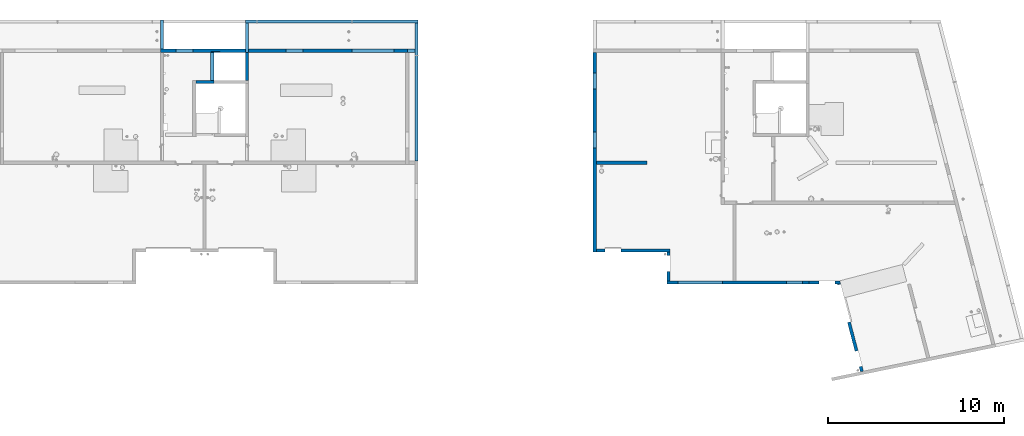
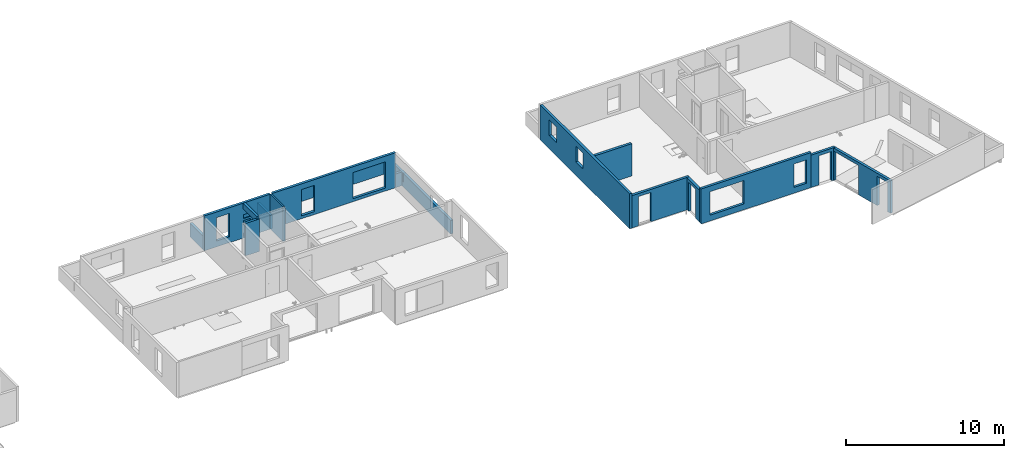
# One storey, part 12 of 28: 17 walls, 23 openings.
"""IFC2X3 building model written with IfcOpenShell, lengths in centimetres."""

import ifcopenshell
import ifcopenshell.guid

model = None  # the IFC model being written
_history = None  # IfcOwnerHistory: only IFC2X3 demands one
_inside = {}  # id of a spatial element -> (the spatial element, [elements in it])
_under = {}  # id of a project, library or spatial element -> (it, [spatial elements below it])
_declared = {}  # id of a project -> (the project, [libraries it declares])
_typed = {}  # id of a type object -> (the type object, [elements of that type])
_made_of = {}  # id of a material, layer set ... -> (it, [elements and type objects made of it])


def new_model(schema):
    """Start an empty IFC model of exactly this schema.

    Asked for "IFC4X3", IfcOpenShell would pick the latest addendum, in which some entities
    have other attributes; the version numbers below select the first issue.
    IFC2X3 requires an IfcOwnerHistory on every rooted entity: one is made here for all.
    """
    global model, _history
    if schema == "IFC4X3":
        model = ifcopenshell.file(schema_version=(4, 3, 0, 0))
    else:
        model = ifcopenshell.file(schema=schema)
    _inside.clear()
    _under.clear()
    _declared.clear()
    _typed.clear()
    _made_of.clear()
    _history = None
    if model.schema == "IFC2X3":
        org = make("IfcOrganization", Name="unknown")
        user = make(
            "IfcPersonAndOrganization",
            ThePerson=make("IfcPerson", FamilyName="unknown"),
            TheOrganization=org,
        )
        app = make(
            "IfcApplication",
            ApplicationDeveloper=org,
            Version="unknown",
            ApplicationFullName="unknown",
            ApplicationIdentifier="unknown",
        )
        _history = make(
            "IfcOwnerHistory",
            OwningUser=user,
            OwningApplication=app,
            ChangeAction="ADDED",
            CreationDate=0,
        )
    return model


def make(cls, **values):
    """One entity of the class cls with the attributes given. An attribute that is None is left unset."""
    return model.create_entity(
        cls, **{name: value for name, value in values.items() if value is not None}
    )


def entity(cls, *values):
    """Any entity or typed value of the class cls, its attributes in the order of the schema. None: left unset."""
    e = model.create_entity(cls)
    for i, value in enumerate(values):
        if value is not None:
            e[i] = value
    return e


def rooted(cls, **values):
    """An entity with a GlobalId (a new one), such as an element, a storey or a relation."""
    return make(cls, GlobalId=ifcopenshell.guid.new(), OwnerHistory=_history, **values)


def si_unit(unit_type, name, prefix=None):
    """IfcSIUnit, for example si_unit("LENGTHUNIT", "METRE", prefix="MILLI")."""
    return make("IfcSIUnit", UnitType=unit_type, Prefix=prefix, Name=name)


def converted_unit(unit_type, name, factor, base, dimensions=None, offset=None):
    """IfcConversionBasedUnit, such as the inch: factor (a typed value) times the base unit."""
    return make(
        "IfcConversionBasedUnit"
        if offset is None
        else "IfcConversionBasedUnitWithOffset",
        ConversionOffset=offset,
        Dimensions=None
        if dimensions is None
        else entity("IfcDimensionalExponents", *dimensions),
        UnitType=unit_type,
        Name=name,
        ConversionFactor=make(
            "IfcMeasureWithUnit", ValueComponent=factor, UnitComponent=base
        ),
    )


def derived_unit(unit_type, elements):
    """IfcDerivedUnit: a product of units, each with its exponent."""
    return make(
        "IfcDerivedUnit",
        Elements=[
            make("IfcDerivedUnitElement", Unit=unit, Exponent=power)
            for unit, power in elements
        ],
        UnitType=unit_type,
    )


def assignment(units):
    """IfcUnitAssignment: the units of a project."""
    return None if units is None else make("IfcUnitAssignment", Units=units)


def point(xyz):
    """IfcCartesianPoint."""
    return None if xyz is None else make("IfcCartesianPoint", Coordinates=xyz)


def direction(xyz):
    """IfcDirection."""
    return None if xyz is None else make("IfcDirection", DirectionRatios=xyz)


def frame(location, z_axis=None, x_axis=None):
    """IfcAxis2Placement3D, a coordinate frame: its origin and axes. An axis left out is left unset."""
    return make(
        "IfcAxis2Placement3D",
        Location=point(location),
        Axis=direction(z_axis),
        RefDirection=direction(x_axis),
    )


def frame_2d(location, x_axis=None):
    """IfcAxis2Placement2D, a coordinate frame in the plane: its origin and x axis."""
    return make(
        "IfcAxis2Placement2D", Location=point(location), RefDirection=direction(x_axis)
    )


def origin():
    """The frame at (0, 0, 0) with its axes left unset."""
    return frame((0.0, 0.0, 0.0))


def place(relative_to, where):
    """IfcLocalPlacement: puts the frame where relative to a parent placement (None: the world)."""
    return make(
        "IfcLocalPlacement", PlacementRelTo=relative_to, RelativePlacement=where
    )


def context(
    kind, dimensions, precision=None, world=None, true_north=None, identifier=None
):
    """IfcGeometricRepresentationContext, for example the 3D "Model" context."""
    return make(
        "IfcGeometricRepresentationContext",
        ContextIdentifier=identifier,
        ContextType=kind,
        CoordinateSpaceDimension=dimensions,
        Precision=precision,
        WorldCoordinateSystem=world,
        TrueNorth=true_north,
    )


def subcontext(parent, identifier, kind, view, scale=None):
    """IfcGeometricRepresentationSubContext, for example "Body" below "Model"."""
    return make(
        "IfcGeometricRepresentationSubContext",
        ContextIdentifier=identifier,
        ContextType=kind,
        ParentContext=parent,
        TargetScale=scale,
        TargetView=view,
    )


def project(units=None, contexts=None):
    """IfcProject with its units and contexts."""
    return rooted(
        "IfcProject",
        Name="project",
        RepresentationContexts=contexts,
        UnitsInContext=assignment(units),
    )


def spatial(cls, under=None, at=None, **own):
    """A site, building, storey or space (cls), placed at a placement, below another one or the project."""
    s = rooted(cls, ObjectPlacement=at, **own)
    if under is not None:
        _under.setdefault(under.id(), (under, []))[1].append(s)
    return s


def polyline(points):
    """IfcPolyline through the points."""
    return make("IfcPolyline", Points=[point(p) for p in points])


def profile(cls, at=None, kind="AREA", **sizes):
    """A parametric profile (cls). Its sizes go by their IFC names, for example OverallWidth=200.0."""
    return make(cls, ProfileType=kind, Position=at, **sizes)


def rectangle(**sizes):
    """IfcRectangleProfileDef."""
    return profile("IfcRectangleProfileDef", **sizes)


def outline(outer, holes=None, kind="AREA"):
    """IfcArbitraryClosedProfileDef: a profile drawn as a closed curve; with holes, ...WithVoids."""
    if holes is None:
        return make("IfcArbitraryClosedProfileDef", ProfileType=kind, OuterCurve=outer)
    return make(
        "IfcArbitraryProfileDefWithVoids",
        ProfileType=kind,
        OuterCurve=outer,
        InnerCurves=holes,
    )


def extrude(swept, where, along, depth):
    """IfcExtrudedAreaSolid: the profile swept, set in the frame where, extruded along a direction by depth."""
    return make(
        "IfcExtrudedAreaSolid",
        SweptArea=swept,
        Position=where,
        ExtrudedDirection=direction(along),
        Depth=depth,
    )


def clip(a, b, op="DIFFERENCE"):
    """IfcBooleanClippingResult: the solid a cut by the half space b."""
    return make(
        "IfcBooleanClippingResult", Operator=op, FirstOperand=a, SecondOperand=b
    )


def bounded_halfspace(plane, agree, where, boundary):
    """IfcPolygonalBoundedHalfSpace: a half space limited to a polygon's prism."""
    return make(
        "IfcPolygonalBoundedHalfSpace",
        BaseSurface=make("IfcPlane", Position=plane),
        AgreementFlag=agree,
        Position=where,
        PolygonalBoundary=boundary,
    )


def shape(context_of_items, identifier, shape_type, items):
    """IfcShapeRepresentation: the items that make up one representation, for example the "Body"."""
    return make(
        "IfcShapeRepresentation",
        ContextOfItems=context_of_items,
        RepresentationIdentifier=identifier,
        RepresentationType=shape_type,
        Items=items,
    )


def material(Name=None, Category=None):
    """IfcMaterial."""
    return make("IfcMaterial", Name=Name, Category=Category)


def layer(
    of_material, thickness, ventilated=None, Name=None, Category=None, Priority=None
):
    """IfcMaterialLayer: one layer of a wall or slab, of a material (None: an air gap)."""
    return make(
        "IfcMaterialLayer",
        Material=of_material,
        LayerThickness=thickness,
        IsVentilated=ventilated,
        Name=Name,
        Category=Category,
        Priority=Priority,
    )


def layer_set(layers, Name=None):
    """IfcMaterialLayerSet."""
    return make("IfcMaterialLayerSet", MaterialLayers=layers, LayerSetName=Name)


def layer_usage(for_layer_set, set_direction, sense, offset, extent=None):
    """IfcMaterialLayerSetUsage: how a layer set lies in its element."""
    return make(
        "IfcMaterialLayerSetUsage",
        ForLayerSet=for_layer_set,
        LayerSetDirection=set_direction,
        DirectionSense=sense,
        OffsetFromReferenceLine=offset,
        ReferenceExtent=extent,
    )


def made_of(thing, what):
    """Note that an element or type object is made of a material, layer set ...; save() writes the relation."""
    if what is not None:
        _made_of.setdefault(what.id(), (what, []))[1].append(thing)
    return thing


def type_object(cls, material=None, **own):
    """A type object (cls), such as IfcWallType, which elements share."""
    return made_of(rooted(cls, **own), material)


def element(
    cls,
    number,
    at=None,
    inside=None,
    cuts=None,
    type_object=None,
    material=None,
    context=None,
    identifier="Body",
    shape_type=None,
    held_by="IfcProductDefinitionShape",
    body=None,
    shapes=None,
    **own,
):
    """One element of the class cls, such as IfcWall. Its Tag is "e" and its number.

    at: its placement. inside: the storey or other place that contains it. cuts: it is an
    opening in that element (IfcRelVoidsElement). A single representation is given by context,
    identifier, shape_type and body (its items); several are given by shapes. held_by: the class
    of the entity that holds the representations. save() writes the other relations.
    """
    e = rooted(cls, Tag="e%d" % number, ObjectPlacement=at, **own)
    if body is not None:
        shapes = [shape(context, identifier, shape_type, body)]
    if shapes is not None:
        e.Representation = make(held_by, Representations=shapes)
    if inside is not None:
        _inside.setdefault(inside.id(), (inside, []))[1].append(e)
    if cuts is not None:
        rooted(
            "IfcRelVoidsElement", RelatingBuildingElement=cuts, RelatedOpeningElement=e
        )
    if type_object is not None:
        _typed.setdefault(type_object.id(), (type_object, []))[1].append(e)
    return made_of(e, material)


def aggregate(whole, parts):
    """IfcRelAggregates: a whole, such as a stair, and the parts it consists of."""
    return rooted("IfcRelAggregates", RelatingObject=whole, RelatedObjects=parts)


def save(model, path):
    """Write the relations noted so far, then the file.

    IfcRelAggregates (storeys below a building ...), IfcRelContainedInSpatialStructure (elements
    in a storey), IfcRelDefinesByType, IfcRelAssociatesMaterial and IfcRelDeclares: one each for
    every whole, place, type object, material and project.
    """
    for whole, parts in _under.values():
        aggregate(whole, parts)
    for where, things in _inside.values():
        rooted(
            "IfcRelContainedInSpatialStructure",
            RelatedElements=things,
            RelatingStructure=where,
        )
    for kind, things in _typed.values():
        rooted("IfcRelDefinesByType", RelatedObjects=things, RelatingType=kind)
    for what, things in _made_of.values():
        rooted("IfcRelAssociatesMaterial", RelatedObjects=things, RelatingMaterial=what)
    for by, libraries in _declared.values():
        rooted("IfcRelDeclares", RelatingContext=by, RelatedDefinitions=libraries)
    model.write(path)


model = new_model("IFC2X3")

# Units and contexts
model_context = context("Model", 3, precision=0.001, world=origin(), true_north=direction((6.12303176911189e-17, 1.0)))
body_context = subcontext(model_context, "Body", "Model", "MODEL_VIEW")
ifc_project = project(units=[si_unit("LENGTHUNIT", "METRE", prefix="CENTI"), si_unit("AREAUNIT", "SQUARE_METRE"), si_unit("VOLUMEUNIT", "CUBIC_METRE"), converted_unit("PLANEANGLEUNIT", "DEGREE", entity("IfcRatioMeasure", 0.0174532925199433), si_unit("PLANEANGLEUNIT", "RADIAN"), dimensions=[0, 0, 0, 0, 0, 0, 0]), si_unit("MASSUNIT", "GRAM", prefix="KILO"), derived_unit("MASSDENSITYUNIT", [(si_unit("MASSUNIT", "GRAM", prefix="KILO"), 1), (si_unit("LENGTHUNIT", "METRE"), -3)]), si_unit("TIMEUNIT", "SECOND"), si_unit("FREQUENCYUNIT", "HERTZ"), si_unit("THERMODYNAMICTEMPERATUREUNIT", "DEGREE_CELSIUS"), derived_unit("THERMALTRANSMITTANCEUNIT", [(si_unit("MASSUNIT", "GRAM", prefix="KILO"), 1), (si_unit("THERMODYNAMICTEMPERATUREUNIT", "KELVIN"), -1), (si_unit("TIMEUNIT", "SECOND"), -3)]), derived_unit("VOLUMETRICFLOWRATEUNIT", [(si_unit("LENGTHUNIT", "METRE"), 3), (si_unit("TIMEUNIT", "SECOND"), -1)]), si_unit("ELECTRICCURRENTUNIT", "AMPERE"), si_unit("ELECTRICVOLTAGEUNIT", "VOLT"), si_unit("POWERUNIT", "WATT"), si_unit("FORCEUNIT", "NEWTON"), si_unit("ILLUMINANCEUNIT", "LUX"), si_unit("LUMINOUSFLUXUNIT", "LUMEN"), si_unit("LUMINOUSINTENSITYUNIT", "CANDELA"), derived_unit("USERDEFINED", [(si_unit("MASSUNIT", "GRAM", prefix="KILO"), -1), (si_unit("LENGTHUNIT", "METRE"), -2), (si_unit("TIMEUNIT", "SECOND"), 3), (si_unit("LUMINOUSFLUXUNIT", "LUMEN"), 1)]), derived_unit("LINEARVELOCITYUNIT", [(si_unit("LENGTHUNIT", "METRE"), 1), (si_unit("TIMEUNIT", "SECOND"), -1)]), si_unit("PRESSUREUNIT", "PASCAL"), derived_unit("USERDEFINED", [(si_unit("LENGTHUNIT", "METRE"), -2), (si_unit("MASSUNIT", "GRAM", prefix="KILO"), 1), (si_unit("TIMEUNIT", "SECOND"), -2)])], contexts=[model_context])

# Site, building, storey
site_placement = place(None, origin())
site = spatial("IfcSite", under=ifc_project, at=site_placement, Name="Default", CompositionType="ELEMENT")
building_placement = place(site_placement, origin())
building = spatial("IfcBuilding", under=site, at=building_placement, Name="CAGE 03", CompositionType="ELEMENT")
storey_placement = place(building_placement, frame((0.0, 0.0, 1420.0)))
storey = spatial("IfcBuildingStorey", under=building, at=storey_placement, Name="R+5", CompositionType="ELEMENT", Elevation=1420.0)

# Wall, opening
ifc_material_1 = material(Name="Béton, C25/30")
ifc_layer_1 = layer(ifc_material_1, 18.0)
ifc_layer_set_1 = layer_set([ifc_layer_1], Name="Mur de base:Voile BA 18")
ifc_layer_usage_1 = layer_usage(ifc_layer_set_1, "AXIS2", "POSITIVE", -9.0)
wall_type_1 = type_object("IfcWallType", Name="Mur de base:Voile BA 18", PredefinedType="STANDARD", material=ifc_layer_set_1)
wall_1_placement = place(storey_placement, frame((9302.36582014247, 3985.66066607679, 0.0)))
wall_1 = element("IfcWallStandardCase", 1, at=wall_1_placement, inside=storey, type_object=wall_type_1, material=ifc_layer_usage_1, Name="Mur de base:Voile BA 18", ObjectType="Mur de base:Voile BA 18", context=body_context, shape_type="SweptSolid", body=[
    extrude(rectangle(XDim=419.000000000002, YDim=17.9999999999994, at=frame_2d((209.500000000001, -4.35207425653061e-14), x_axis=(-1.0, 0.0))), origin(), (0.0, 0.0, 1.0), 250.0),
])
opening_1_placement = place(wall_1_placement, frame((-9302.36582014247, -3985.66066607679, 0.0)))
element("IfcOpeningElement", 2, at=opening_1_placement, cuts=wall_1, Name="Mur de base:Voile BA 18", ObjectType="Opening", context=body_context, shape_type="SweptSolid", body=[
    extrude(rectangle(XDim=226.0, YDim=91.0000000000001, at=frame_2d((0.0, -1.13686837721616e-13), x_axis=(0.0, 1.0))), frame((9396.86582014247, 3824.26066607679, 113.0), z_axis=(0.0, 1.0, 0.0), x_axis=(-1.0, 0.0, 0.0)), (0.0, 0.0, 1.0), 304.8),
])

ifc_layer_usage_2 = layer_usage(ifc_layer_set_1, "AXIS2", "POSITIVE", -9.0)
wall_2_placement = place(storey_placement, frame((9712.36582014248, 3976.66066607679, 0.0), z_axis=(0.0, 0.0, 1.0), x_axis=(0.0, -1.0, 0.0)))
wall_2 = element("IfcWallStandardCase", 3, at=wall_2_placement, inside=storey, type_object=wall_type_1, material=ifc_layer_usage_2, Name="Mur de base:Voile BA 18", ObjectType="Mur de base:Voile BA 18", context=body_context, shape_type="SweptSolid", body=[
    extrude(rectangle(XDim=161.999999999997, YDim=17.9999999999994, at=frame_2d((80.9999999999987, 4.2721381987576e-13), x_axis=(-1.0, 0.0))), origin(), (0.0, 0.0, 1.0), 250.0),
])
opening_2_placement = place(wall_2_placement, frame((3976.66066607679, -9712.36582014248, 0.0), z_axis=(0.0, 0.0, 1.0), x_axis=(0.0, 1.0, 0.0)))
element("IfcOpeningElement", 4, at=opening_2_placement, cuts=wall_2, Name="Mur de base:Voile BA 18", ObjectType="Opening", context=body_context, shape_type="SweptSolid", body=[
    extrude(rectangle(XDim=226.0, YDim=91.0000000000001, at=frame_2d((0.0, -1.13686837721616e-13), x_axis=(0.0, 1.0))), frame((9568.96582014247, 3912.16066607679, 113.0), z_axis=(1.0, 0.0, 0.0), x_axis=(0.0, 1.0, 0.0)), (0.0, 0.0, 1.0), 304.8),
])

# Wall, openings
ifc_layer_usage_3 = layer_usage(ifc_layer_set_1, "AXIS2", "POSITIVE", -9.0)
wall_3_placement = place(storey_placement, frame((9703.36582014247, 3805.66066607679, 0.0)))
wall_3 = element("IfcWallStandardCase", 5, at=wall_3_placement, inside=storey, type_object=wall_type_1, material=ifc_layer_usage_3, Name="Mur de base:Voile BA 18", ObjectType="Mur de base:Voile BA 18", context=body_context, shape_type="SweptSolid", body=[
    extrude(rectangle(XDim=804.000000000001, YDim=18.0000000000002, at=frame_2d((402.0, 4.44089209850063e-15), x_axis=(-1.0, 0.0))), origin(), (0.0, 0.0, 1.0), 270.0),
])
opening_3_placement = place(wall_3_placement, frame((-9703.36582014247, -3805.66066607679, 0.0)))
element("IfcOpeningElement", 6, at=opening_3_placement, cuts=wall_3, Name="Mur de base:Voile BA 18", ObjectType="Opening", context=body_context, shape_type="SweptSolid", body=[
    extrude(rectangle(XDim=181.0, YDim=90.9999999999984, at=frame_2d((8.66862137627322e-13, 1.06581410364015e-13), x_axis=(0.0, 1.0))), frame((10426.8658201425, 3644.26066607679, 135.5), z_axis=(0.0, 1.0, 0.0), x_axis=(-1.0, 0.0, 0.0)), (0.0, 0.0, 1.0), 304.799999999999),
])
opening_4_placement = place(wall_3_placement, frame((-9703.36582014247, -3805.66066607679, 0.0)))
element("IfcOpeningElement", 7, at=opening_4_placement, cuts=wall_3, Name="Mur de base:Voile BA 18", ObjectType="Opening", context=body_context, shape_type="SweptSolid", body=[
    extrude(rectangle(XDim=181.0, YDim=251.0, at=frame_2d((8.66862137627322e-13, 1.06581410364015e-13), x_axis=(0.0, 1.0))), frame((9891.86582014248, 3644.26066607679, 135.5), z_axis=(0.0, 1.0, 0.0), x_axis=(-1.0, 0.0, 0.0)), (0.0, 0.0, 1.0), 304.8),
])

ifc_layer_usage_4 = layer_usage(ifc_layer_set_1, "AXIS2", "POSITIVE", -9.0)
wall_4_placement = place(storey_placement, frame((10678.3331842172, 3798.9347832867, 0.0), z_axis=(0.0, 0.0, 1.0), x_axis=(0.252679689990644, -0.967549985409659, 0.0)))
wall_4 = element("IfcWallStandardCase", 8, at=wall_4_placement, inside=storey, type_object=wall_type_1, material=ifc_layer_usage_4, Name="Mur de base:Voile BA 18", ObjectType="Mur de base:Voile BA 18", context=body_context, shape_type="SweptSolid", body=[
    extrude(outline(polyline([(0.0, -9.0), (514.841757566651, -9.0), (515.782049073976, 9.0), (4.70077462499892, 9.0), (0.0, -9.0)])), origin(), (0.0, 0.0, 1.0), 250.0),
])
opening_5_placement = place(wall_4_placement, frame((977.461375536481, -11291.7347799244, 0.0), z_axis=(0.0, 0.0, 1.0), x_axis=(0.252679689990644, 0.967549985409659, 0.0)))
element("IfcOpeningElement", 9, at=opening_5_placement, cuts=wall_4, Name="Mur de base:Voile BA 18", ObjectType="Opening", context=body_context, shape_type="SweptSolid", body=[
    extrude(rectangle(XDim=226.0, YDim=90.9999999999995, at=frame_2d((-2.20268248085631e-13, -1.13686837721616e-13), x_axis=(0.0, 1.0))), frame((10650.9022570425, 3336.45516406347, 113.0), z_axis=(0.967549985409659, 0.252679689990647, 0.0), x_axis=(-0.252679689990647, 0.967549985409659, 0.0)), (0.0, 0.0, 1.0), 304.8),
])
opening_6_placement = place(wall_4_placement, frame((977.461375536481, -11291.7347799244, 0.0), z_axis=(0.0, 0.0, 1.0), x_axis=(0.252679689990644, 0.967549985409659, 0.0)))
element("IfcOpeningElement", 10, at=opening_6_placement, cuts=wall_4, Name="Mur de base:Voile BA 18", ObjectType="Opening", context=body_context, shape_type="SweptSolid", body=[
    extrude(rectangle(XDim=226.0, YDim=220.0, at=frame_2d((2.1316282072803e-13, -1.13686837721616e-13), x_axis=(0.0, 1.0))), frame((10568.9076976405, 3650.42513432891, 113.0), z_axis=(0.96754998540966, 0.252679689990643, 0.0), x_axis=(-0.252679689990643, 0.96754998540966, 0.0)), (0.0, 0.0, 1.0), 304.799999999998),
])

# Walls
ifc_layer_usage_5 = layer_usage(ifc_layer_set_1, "AXIS2", "POSITIVE", -9.0)
wall_5_placement = place(storey_placement, frame((8292.36582014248, 5284.6606660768, 0.0), z_axis=(0.0, 0.0, 1.0), x_axis=(-1.0, 0.0, 0.0)))
element("IfcWallStandardCase", 11, at=wall_5_placement, inside=storey, type_object=wall_type_1, material=ifc_layer_usage_5, Name="Mur de base:Voile BA 18", ObjectType="Mur de base:Voile BA 18", context=body_context, shape_type="Clipping", body=[
    clip(clip(extrude(rectangle(XDim=978.999999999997, YDim=17.9999999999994, at=frame_2d((489.499999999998, -2.1582735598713e-13), x_axis=(-1.0, 0.0))), origin(), (0.0, 0.0, 1.0), 105.0), bounded_halfspace(frame((913.0, 9.0, 40.0), z_axis=(0.0, 0.0, 1.0), x_axis=(0.0, -1.0, 0.0)), False, frame((913.0, 9.0, 40.0), z_axis=(0.0, 0.0, 1.0), x_axis=(0.0, -1.0, 0.0)), polyline([(0.0, 0.0), (18.0, 0.0), (18.0, 2.0), (0.0, 2.0), (0.0, 0.0)]))), bounded_halfspace(frame((374.0, 9.0, 40.0), z_axis=(0.0, 0.0, 1.0), x_axis=(0.0, -1.0, 0.0)), False, frame((374.0, 9.0, 40.0), z_axis=(0.0, 0.0, 1.0), x_axis=(0.0, -1.0, 0.0)), polyline([(0.0, 0.0), (18.0, 0.0), (18.0, 2.0), (0.0, 2.0), (0.0, 0.0)]))),
])
ifc_layer_usage_6 = layer_usage(ifc_layer_set_1, "AXIS2", "POSITIVE", -9.0)
wall_6_placement = place(storey_placement, frame((7322.36582014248, 5275.6606660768, 0.0), z_axis=(0.0, 0.0, 1.0), x_axis=(0.0, -1.0, 0.0)))
element("IfcWallStandardCase", 12, at=wall_6_placement, inside=storey, type_object=wall_type_1, material=ifc_layer_usage_6, Name="Mur de base:Voile BA 18", ObjectType="Mur de base:Voile BA 18", context=body_context, shape_type="SweptSolid", body=[
    extrude(rectangle(XDim=165.0, YDim=17.9999999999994, at=frame_2d((82.4999999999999, -2.1582735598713e-13), x_axis=(-1.0, 0.0))), origin(), (0.0, 0.0, 1.0), 105.0),
])

# Wall, openings
ifc_layer_usage_7 = layer_usage(ifc_layer_set_1, "AXIS2", "POSITIVE", -9.0)
wall_7_placement = place(storey_placement, frame((7322.36582014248, 5119.6606660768, 0.0), z_axis=(0.0, 0.0, 1.0), x_axis=(-1.0, 0.0, 0.0)))
wall_7 = element("IfcWallStandardCase", 13, at=wall_7_placement, inside=storey, type_object=wall_type_1, material=ifc_layer_usage_7, Name="Mur de base:Voile BA 18", ObjectType="Mur de base:Voile BA 18", context=body_context, shape_type="SweptSolid", body=[
    extrude(rectangle(XDim=482.0, YDim=18.0000000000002, at=frame_2d((250.0, -5.98632254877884e-13), x_axis=(-1.0, 0.0))), origin(), (0.0, 0.0, 1.0), 270.0),
])
opening_7_placement = place(wall_7_placement, origin())
element("IfcOpeningElement", 14, at=opening_7_placement, cuts=wall_7, Name="Mur de base:Voile BA 18", ObjectType="Opening", context=body_context, shape_type="SweptSolid", body=[
    extrude(rectangle(XDim=227.0, YDim=18.0000000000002, at=frame_2d((4.33431068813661e-13, -2.20268248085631e-13), x_axis=(0.0, 1.0))), frame((198.0, 9.0, 113.5), z_axis=(0.0, 1.0, 0.0), x_axis=(-1.0, 0.0, 0.0)), (0.0, 0.0, 1.0), 160.0),
])
opening_8_placement = place(wall_7_placement, origin())
element("IfcOpeningElement", 15, at=opening_8_placement, cuts=wall_7, Name="Mur de base:Voile BA 18", ObjectType="Recess", context=body_context, shape_type="SweptSolid", body=[
    extrude(rectangle(XDim=30.0000000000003, YDim=49.9999999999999, at=frame_2d((-4.33431068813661e-13, 1.08357767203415e-13), x_axis=(0.0, 1.0))), frame((179.0, 4.0, 25.0), z_axis=(0.0, 1.0, 0.0), x_axis=(1.0, 0.0, 0.0)), (0.0, 0.0, 1.0), 4.99999999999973),
])
opening_9_placement = place(wall_7_placement, origin())
element("IfcOpeningElement", 16, at=opening_9_placement, cuts=wall_7, Name="Mur de base:Voile BA 18", ObjectType="Recess", context=body_context, shape_type="SweptSolid", body=[
    extrude(rectangle(XDim=30.0000000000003, YDim=49.9999999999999, at=frame_2d((-4.33431068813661e-13, 1.08357767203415e-13), x_axis=(0.0, 1.0))), frame((179.0, 4.0, 120.0), z_axis=(0.0, 1.0, 0.0), x_axis=(1.0, 0.0, 0.0)), (0.0, 0.0, 1.0), 4.99999999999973),
])
opening_10_placement = place(wall_7_placement, origin())
element("IfcOpeningElement", 17, at=opening_10_placement, cuts=wall_7, Name="Mur de base:Voile BA 18", ObjectType="Recess", context=body_context, shape_type="SweptSolid", body=[
    extrude(rectangle(XDim=30.0000000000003, YDim=49.9999999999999, at=frame_2d((-4.33431068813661e-13, 1.08357767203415e-13), x_axis=(0.0, 1.0))), frame((179.0, 4.0, 165.0), z_axis=(0.0, 1.0, 0.0), x_axis=(1.0, 0.0, 0.0)), (0.0, 0.0, 1.0), 4.99999999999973),
])
opening_11_placement = place(wall_7_placement, frame((7322.36582014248, 5119.6606660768, 0.0), z_axis=(0.0, 0.0, 1.0), x_axis=(-1.0, 0.0, 0.0)))
element("IfcOpeningElement", 18, at=opening_11_placement, cuts=wall_7, Name="Mur de base:Voile BA 18", ObjectType="Opening", context=body_context, shape_type="SweptSolid", body=[
    extrude(rectangle(XDim=181.0, YDim=94.9999999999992, at=frame_2d((0.0, -2.1316282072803e-13), x_axis=(0.0, 1.0))), frame((6966.86582014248, 5263.0606660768, 135.5), z_axis=(0.0, -1.0, 0.0), x_axis=(1.0, 0.0, 0.0)), (0.0, 0.0, 1.0), 304.8),
])

# Wall
ifc_layer_usage_8 = layer_usage(ifc_layer_set_1, "AXIS2", "POSITIVE", -9.0)
wall_8_placement = place(storey_placement, frame((6840.36582014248, 5128.6606660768, 0.0), z_axis=(0.0, 0.0, 1.0), x_axis=(0.0, 1.0, 0.0)))
element("IfcWallStandardCase", 19, at=wall_8_placement, inside=storey, type_object=wall_type_1, material=ifc_layer_usage_8, Name="Mur de base:Voile BA 18", ObjectType="Mur de base:Voile BA 18", context=body_context, shape_type="SweptSolid", body=[
    extrude(rectangle(XDim=165.0, YDim=17.9999999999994, at=frame_2d((82.4999999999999, 1.77635683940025e-15), x_axis=(-1.0, 0.0))), origin(), (0.0, 0.0, 1.0), 105.0),
])

# Wall, opening
ifc_layer_usage_9 = layer_usage(ifc_layer_set_1, "AXIS2", "POSITIVE", -9.0)
wall_9_placement = place(storey_placement, frame((7124.36582014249, 5110.6606660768, 227.0), z_axis=(0.0, 0.0, 1.0), x_axis=(0.0, -1.0, 0.0)))
wall_9 = element("IfcWallStandardCase", 20, at=wall_9_placement, inside=storey, type_object=wall_type_1, material=ifc_layer_usage_9, Name="Mur de base:Voile BA 18", ObjectType="Mur de base:Voile BA 18", context=body_context, shape_type="Clipping", body=[
    clip(extrude(rectangle(XDim=172.500000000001, YDim=17.9999999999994, at=frame_2d((86.2500000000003, -1.98951966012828e-13), x_axis=(-1.0, 0.0))), origin(), (0.0, 0.0, 1.0), 43.0000000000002), bounded_halfspace(frame((172.500000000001, -9.0, 43.0), z_axis=(-1.0, 0.0, 0.0), x_axis=(0.0, 0.0, 1.0)), True, frame((172.500000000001, -9.0, 43.0), z_axis=(-1.0, 0.0, 0.0), x_axis=(0.0, 0.0, 1.0)), polyline([(0.0, 0.0), (0.0, 18.0), (-20.0, 18.0), (-20.0, 0.0), (0.0, 0.0)]))),
])
opening_12_placement = place(wall_9_placement, frame((5110.6606660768, -7124.36582014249, -227.0), z_axis=(0.0, 0.0, 1.0), x_axis=(0.0, 1.0, 0.0)))
element("IfcOpeningElement", 21, at=opening_12_placement, cuts=wall_9, Name="Mur de base:Voile BA 18", ObjectType="Opening", context=body_context, shape_type="SweptSolid", body=[
    extrude(rectangle(XDim=227.0, YDim=160.0, at=frame_2d((0.0, -2.20268248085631e-13), x_axis=(0.0, 1.0))), frame((6980.96582014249, 5030.6606660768, 113.5), z_axis=(1.0, 0.0, 0.0), x_axis=(0.0, 1.0, 0.0)), (0.0, 0.0, 1.0), 304.8),
])

# Wall
ifc_layer_usage_10 = layer_usage(ifc_layer_set_1, "AXIS2", "NEGATIVE", 9.0)
wall_10_placement = place(storey_placement, frame((9302.36582014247, 4483.66066607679, 0.0)))
element("IfcWallStandardCase", 22, at=wall_10_placement, inside=storey, type_object=wall_type_1, material=ifc_layer_usage_10, Name="Mur de base:Voile BA 18", ObjectType="Mur de base:Voile BA 18", context=body_context, shape_type="SweptSolid", body=[
    extrude(rectangle(XDim=287.000000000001, YDim=17.9999999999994, at=frame_2d((143.5, 5.32907051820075e-15), x_axis=(-1.0, 0.0))), origin(), (0.0, 0.0, 1.0), 250.0),
])

# Wall, openings
ifc_layer_usage_11 = layer_usage(ifc_layer_set_1, "AXIS2", "POSITIVE", -9.0)
wall_11_placement = place(storey_placement, frame((8239.36582014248, 5119.6606660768, 0.0), z_axis=(0.0, 0.0, 1.0), x_axis=(-1.0, 0.0, 0.0)))
wall_11 = element("IfcWallStandardCase", 23, at=wall_11_placement, inside=storey, type_object=wall_type_1, material=ifc_layer_usage_11, Name="Mur de base:Voile BA 18", ObjectType="Mur de base:Voile BA 18", context=body_context, shape_type="SweptSolid", body=[
    extrude(rectangle(XDim=898.999999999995, YDim=18.0000000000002, at=frame_2d((458.499999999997, -3.12638803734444e-13), x_axis=(-1.0, 0.0))), origin(), (0.0, 0.0, 1.0), 270.0),
])
opening_13_placement = place(wall_11_placement, origin())
element("IfcOpeningElement", 24, at=opening_13_placement, cuts=wall_11, Name="Mur de base:Voile BA 18", ObjectType="Opening", context=body_context, shape_type="SweptSolid", body=[
    extrude(rectangle(XDim=227.0, YDim=18.0000000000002, at=frame_2d((4.33431068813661e-13, -2.20268248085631e-13), x_axis=(0.0, 1.0))), frame((1115.0, 9.0, 113.5), z_axis=(0.0, 1.0, 0.0), x_axis=(-1.0, 0.0, 0.0)), (0.0, 0.0, 1.0), 160.0),
])
opening_14_placement = place(wall_11_placement, origin())
element("IfcOpeningElement", 25, at=opening_14_placement, cuts=wall_11, Name="Mur de base:Voile BA 18", ObjectType="Recess", context=body_context, shape_type="SweptSolid", body=[
    extrude(rectangle(XDim=30.0000000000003, YDim=49.9999999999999, at=frame_2d((-4.33431068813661e-13, 1.08357767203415e-13), x_axis=(0.0, 1.0))), frame((1096.0, 4.0, 25.0), z_axis=(0.0, 1.0, 0.0), x_axis=(1.0, 0.0, 0.0)), (0.0, 0.0, 1.0), 4.99999999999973),
])
opening_15_placement = place(wall_11_placement, origin())
element("IfcOpeningElement", 26, at=opening_15_placement, cuts=wall_11, Name="Mur de base:Voile BA 18", ObjectType="Recess", context=body_context, shape_type="SweptSolid", body=[
    extrude(rectangle(XDim=30.0000000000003, YDim=49.9999999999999, at=frame_2d((-4.33431068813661e-13, 1.08357767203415e-13), x_axis=(0.0, 1.0))), frame((1096.0, 4.0, 120.0), z_axis=(0.0, 1.0, 0.0), x_axis=(1.0, 0.0, 0.0)), (0.0, 0.0, 1.0), 4.99999999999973),
])
opening_16_placement = place(wall_11_placement, origin())
element("IfcOpeningElement", 27, at=opening_16_placement, cuts=wall_11, Name="Mur de base:Voile BA 18", ObjectType="Recess", context=body_context, shape_type="SweptSolid", body=[
    extrude(rectangle(XDim=30.0000000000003, YDim=49.9999999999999, at=frame_2d((-4.33431068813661e-13, 1.08357767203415e-13), x_axis=(0.0, 1.0))), frame((1096.0, 4.0, 165.0), z_axis=(0.0, 1.0, 0.0), x_axis=(1.0, 0.0, 0.0)), (0.0, 0.0, 1.0), 4.99999999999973),
])
opening_17_placement = place(wall_11_placement, frame((8239.36582014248, 5119.6606660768, 0.0), z_axis=(0.0, 0.0, 1.0), x_axis=(-1.0, 0.0, 0.0)))
element("IfcOpeningElement", 28, at=opening_17_placement, cuts=wall_11, Name="Mur de base:Voile BA 18", ObjectType="Opening", context=body_context, shape_type="SweptSolid", body=[
    extrude(rectangle(XDim=203.0, YDim=94.9999999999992, at=frame_2d((0.0, -1.06581410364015e-13), x_axis=(0.0, 1.0))), frame((7590.86582014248, 5263.0606660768, 124.5), z_axis=(0.0, -1.0, 0.0), x_axis=(1.0, 0.0, 0.0)), (0.0, 0.0, 1.0), 304.8),
])
opening_18_placement = place(wall_11_placement, frame((8239.36582014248, 5119.6606660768, 0.0), z_axis=(0.0, 0.0, 1.0), x_axis=(-1.0, 0.0, 0.0)))
element("IfcOpeningElement", 29, at=opening_18_placement, cuts=wall_11, Name="Mur de base:Voile BA 18", ObjectType="Opening", context=body_context, shape_type="SweptSolid", body=[
    extrude(rectangle(XDim=203.0, YDim=239.999999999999, at=frame_2d((8.66862137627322e-13, -1.06581410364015e-13), x_axis=(0.0, 1.0))), frame((8036.36582014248, 5263.0606660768, 124.5), z_axis=(0.0, -1.0, 0.0), x_axis=(1.0, 0.0, 0.0)), (0.0, 0.0, 1.0), 304.8),
])

# Wall
ifc_layer_usage_12 = layer_usage(ifc_layer_set_1, "AXIS2", "POSITIVE", -9.0)
wall_12_placement = place(storey_placement, frame((8283.36582014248, 4492.6606660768, 0.0), z_axis=(0.0, 0.0, 1.0), x_axis=(0.0, 1.0, 0.0)))
element("IfcWallStandardCase", 30, at=wall_12_placement, inside=storey, type_object=wall_type_1, material=ifc_layer_usage_12, Name="Mur de base:Voile BA 18", ObjectType="Mur de base:Voile BA 18", context=body_context, shape_type="Clipping", body=[
    clip(extrude(rectangle(XDim=783.0, YDim=17.9999999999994, at=frame_2d((391.5, -5.50670620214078e-13), x_axis=(-1.0, 0.0))), origin(), (0.0, 0.0, 1.0), 105.0), bounded_halfspace(frame((601.0, -9.0, 40.0), z_axis=(0.0, 0.0, 1.0), x_axis=(0.0, 1.0, 0.0)), False, frame((601.0, -9.0, 40.0), z_axis=(0.0, 0.0, 1.0), x_axis=(0.0, 1.0, 0.0)), polyline([(0.0, 0.0), (18.0, 0.0), (18.0, 2.0), (0.0, 2.0), (0.0, 0.0)]))),
])

# Wall, openings
ifc_layer_usage_13 = layer_usage(ifc_layer_set_1, "AXIS2", "POSITIVE", -9.0)
wall_13_placement = place(storey_placement, frame((9293.36582014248, 5110.66066607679, 0.0), z_axis=(0.0, 0.0, 1.0), x_axis=(0.0, -1.0, 0.0)))
wall_13 = element("IfcWallStandardCase", 31, at=wall_13_placement, inside=storey, type_object=wall_type_1, material=ifc_layer_usage_13, Name="Mur de base:Voile BA 18", ObjectType="Mur de base:Voile BA 18", context=body_context, shape_type="SweptSolid", body=[
    extrude(rectangle(XDim=1134.0, YDim=17.9999999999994, at=frame_2d((567.000000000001, 6.19948536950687e-13), x_axis=(-1.0, 0.0))), origin(), (0.0, 0.0, 1.0), 270.0),
])
opening_19_placement = place(wall_13_placement, frame((5110.66066607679, -9293.36582014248, 0.0), z_axis=(0.0, 0.0, 1.0), x_axis=(0.0, 1.0, 0.0)))
element("IfcOpeningElement", 32, at=opening_19_placement, cuts=wall_13, Name="Mur de base:Voile BA 18", ObjectType="Opening", context=body_context, shape_type="SweptSolid", body=[
    extrude(rectangle(XDim=121.0, YDim=91.0000000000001, at=frame_2d((0.0, -1.10134124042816e-13), x_axis=(0.0, 1.0))), frame((9149.96582014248, 4612.16066607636, 165.5), z_axis=(1.0, 0.0, 0.0), x_axis=(0.0, 1.0, 0.0)), (0.0, 0.0, 1.0), 304.8),
])
opening_20_placement = place(wall_13_placement, frame((5110.66066607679, -9293.36582014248, 0.0), z_axis=(0.0, 0.0, 1.0), x_axis=(0.0, 1.0, 0.0)))
element("IfcOpeningElement", 33, at=opening_20_placement, cuts=wall_13, Name="Mur de base:Voile BA 18", ObjectType="Opening", context=body_context, shape_type="SweptSolid", body=[
    extrude(rectangle(XDim=121.0, YDim=91.0000000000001, at=frame_2d((0.0, -1.10134124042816e-13), x_axis=(0.0, 1.0))), frame((9149.96582014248, 4948.1606660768, 165.5), z_axis=(1.0, 0.0, 0.0), x_axis=(0.0, 1.0, 0.0)), (0.0, 0.0, 1.0), 304.8),
])

# Wall, opening
ifc_layer_usage_14 = layer_usage(ifc_layer_set_1, "AXIS2", "POSITIVE", -9.0)
wall_14_placement = place(storey_placement, frame((10507.3658201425, 3805.66066607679, 0.0)))
wall_14 = element("IfcWallStandardCase", 34, at=wall_14_placement, inside=storey, type_object=wall_type_1, material=ifc_layer_usage_14, Name="Mur de base:Voile BA 18", ObjectType="Mur de base:Voile BA 18", context=body_context, shape_type="SweptSolid", body=[
    extrude(outline(polyline([(0.0, -9.0), (8.26220243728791, -9.0), (162.259414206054, -9.0), (180.863104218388, -9.0), (176.16232959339, 9.0), (3.56142781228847, 9.0), (0.0, 9.0), (0.0, -9.0)])), origin(), (0.0, 0.0, 1.0), 250.0),
])
opening_21_placement = place(wall_14_placement, frame((-10507.3658201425, -3805.66066607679, 0.0)))
element("IfcOpeningElement", 35, at=opening_21_placement, cuts=wall_14, Name="Mur de base:Voile BA 18", ObjectType="Opening", context=body_context, shape_type="SweptSolid", body=[
    extrude(rectangle(XDim=226.0, YDim=90.9999999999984, at=frame_2d((-8.66862137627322e-13, -1.13686837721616e-13), x_axis=(0.0, 1.0))), frame((10609.8658201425, 3644.26066607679, 113.0), z_axis=(0.0, 1.0, 0.0), x_axis=(-1.0, 0.0, 0.0)), (0.0, 0.0, 1.0), 304.8),
])

# Wall
ifc_layer_usage_15 = layer_usage(ifc_layer_set_1, "AXIS2", "POSITIVE", -9.0)
wall_15_placement = place(storey_placement, frame((8274.36582014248, 5119.6606660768, 0.0), z_axis=(0.0, 0.0, 1.0), x_axis=(-1.0, 0.0, 0.0)))
element("IfcWallStandardCase", 36, at=wall_15_placement, inside=storey, type_object=wall_type_1, material=ifc_layer_usage_15, Name="Mur de base:Voile BA 18", ObjectType="Mur de base:Voile BA 18", context=body_context, shape_type="SweptSolid", body=[
    extrude(rectangle(XDim=44.0000000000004, YDim=17.9999999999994, at=frame_2d((22.0000000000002, 7.105427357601e-14), x_axis=(-1.0, 0.0))), origin(), (0.0, 0.0, 1.0), 105.0),
])

# Wall, opening
ifc_material_2 = material(Name="Béton, panneaux préfa 30/37")
ifc_layer_2 = layer(ifc_material_2, 5.5)
ifc_layer_3 = layer(ifc_material_1, 7.0)
ifc_layer_4 = layer(ifc_material_2, 5.5)
ifc_layer_set_2 = layer_set([ifc_layer_2, ifc_layer_3, ifc_layer_4], Name="Mur de base:premur 18")
ifc_layer_usage_16 = layer_usage(ifc_layer_set_2, "AXIS2", "NEGATIVE", 9.0)
wall_type_2 = type_object("IfcWallType", Name="Mur de base:premur 18", PredefinedType="NOTDEFINED")
wall_16_placement = place(storey_placement, frame((7031.36582014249, 4941.6606660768, 0.0)))
wall_16 = element("IfcWallStandardCase", 37, at=wall_16_placement, inside=storey, type_object=wall_type_2, material=ifc_layer_usage_16, Name="Mur de base:premur 18", ObjectType="Mur de base:premur 18", context=body_context, shape_type="SweptSolid", body=[
    extrude(rectangle(XDim=101.999999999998, YDim=17.9999999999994, at=frame_2d((50.9999999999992, -8.88178419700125e-14), x_axis=(-1.0, 0.0))), origin(), (0.0, 0.0, 1.0), 250.0),
])
opening_22_placement = place(wall_16_placement, origin())
element("IfcOpeningElement", 38, at=opening_22_placement, cuts=wall_16, Name="Mur de base:premur 18", ObjectType="Opening", context=body_context, shape_type="SweptSolid", body=[
    extrude(rectangle(XDim=227.0, YDim=18.0000000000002, at=frame_2d((4.33431068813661e-13, 0.0), x_axis=(0.0, 1.0))), frame((93.0, 9.0, 113.5), z_axis=(0.0, 1.0, 0.0), x_axis=(1.0, 0.0, 0.0)), (0.0, 0.0, 1.0), 160.0),
])

ifc_layer_usage_17 = layer_usage(ifc_layer_set_2, "AXIS2", "POSITIVE", -9.0)
wall_17_placement = place(storey_placement, frame((7322.36582014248, 4950.6606660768, 0.0), z_axis=(0.0, 0.0, 1.0), x_axis=(0.0, 1.0, 0.0)))
wall_17 = element("IfcWallStandardCase", 39, at=wall_17_placement, inside=storey, type_object=wall_type_2, material=ifc_layer_usage_17, Name="Mur de base:premur 18", ObjectType="Mur de base:premur 18", context=body_context, shape_type="Clipping", body=[
    clip(clip(extrude(rectangle(XDim=160.0, YDim=17.9999999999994, at=frame_2d((80.0, 1.77635683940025e-13), x_axis=(-1.0, 0.0))), origin(), (0.0, 0.0, 1.0), 270.0), bounded_halfspace(frame((160.0, -3.49999999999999, 250.0), z_axis=(0.0, 0.0, -1.0), x_axis=(0.0, -1.0, 0.0)), True, frame((160.0, -3.49999999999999, 250.0), z_axis=(0.0, 0.0, -1.0), x_axis=(0.0, -1.0, 0.0)), polyline([(0.0, 0.0), (5.50000000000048, 0.0), (5.50000000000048, 160.0), (0.0, 160.0), (0.0, 0.0)]))), bounded_halfspace(frame((0.0, -3.50000000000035, 250.0), z_axis=(0.0, 1.0, 0.0), x_axis=(0.0, 0.0, 1.0)), True, frame((0.0, -3.50000000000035, 250.0), z_axis=(0.0, 1.0, 0.0), x_axis=(0.0, 0.0, 1.0)), polyline([(0.0, 0.0), (20.0, 0.0), (20.0, 160.0), (0.0, 160.0), (0.0, 0.0)]))),
])
opening_23_placement = place(wall_17_placement, origin())
element("IfcOpeningElement", 40, at=opening_23_placement, cuts=wall_17, Name="Mur de base:premur 18", ObjectType="Opening", context=body_context, shape_type="SweptSolid", body=[
    extrude(rectangle(XDim=210.000000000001, YDim=96.9999999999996, at=frame_2d((2.1316282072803e-13, 4.33431068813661e-13), x_axis=(1.0, 0.0))), frame((-409.500000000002, -161.400000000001, 105.0), z_axis=(0.0, 1.0, 0.0), x_axis=(0.0, 0.0, 1.0)), (0.0, 0.0, 1.0), 304.8),
])

save(model, "model.ifc")
